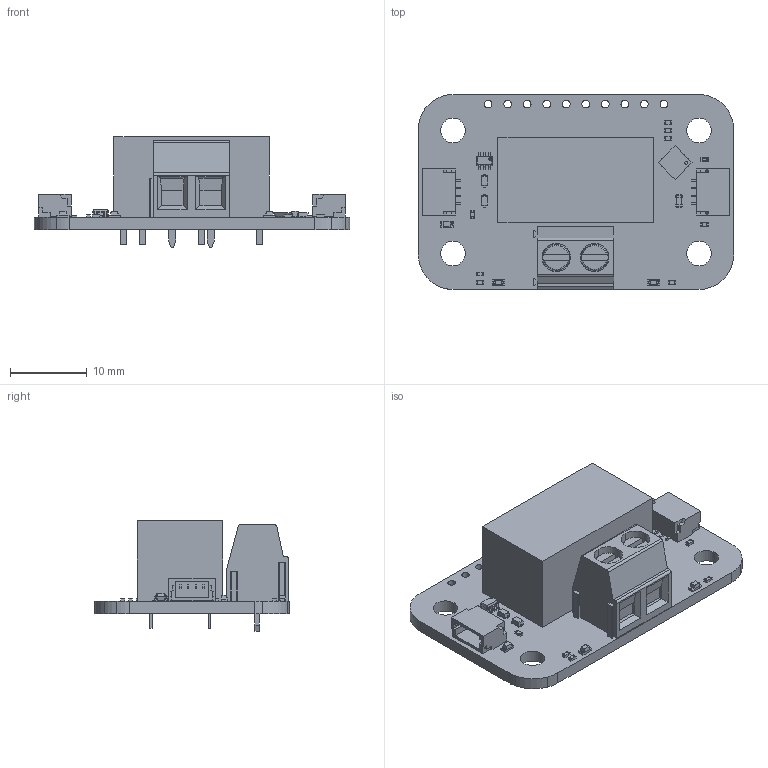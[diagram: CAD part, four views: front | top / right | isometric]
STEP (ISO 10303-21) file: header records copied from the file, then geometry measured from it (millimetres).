
FILE_DESCRIPTION(('Open CASCADE Model'),'2;1');
FILE_NAME('Open CASCADE Shape Model','2025-12-05T11:31:17',('Author'),( 'Open CASCADE'),'Open CASCADE STEP processor 7.5','Open CASCADE 7.5' ,'Unknown');
FILE_SCHEMA(('AUTOMOTIVE_DESIGN { 1 0 10303 214 1 1 1 1 }'));
Length unit declared in the file: millimetre
Products named in the file (45): PCB; Board; Open CASCADE STEP translator 7.5 1.1.1; R6; RES-0402; Q1; sot363; R5; R4; D3; 7340522016; Body; Open CASCADE STEP translator 7.5 2.1.1; lead; J3; DG127-5.0-02P-1Y-1000A&Z(H)_RGB4408131; D5; HSMx-190; R14; D4; RELAY1; 7638685216; Extruded; 7638685056; R12; D2; R1; D1; J2; SM04B-SRSS-TB_RGB12040119; J1; U1; 7340525536; Open CASCADE STEP translator 7.5 16.1; Open CASCADE STEP translator 7.5 16.2.1; Pin Shape; Open CASCADE STEP translator 7.5 16.3.1; R11; R10; C3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
Assembly tree (80 placements, depth 5):
  PCB
    Board
      Open CASCADE STEP translator 7.5 1.1.1
    R6
      RES-0402
    Q1
      sot363
    R5
      RES-0402
    R4
      RES-0402
    D3
      7340522016
        Body
          Open CASCADE STEP translator 7.5 2.1.1
        lead  x2
    J3
      DG127-5.0-02P-1Y-1000A&Z(H)_RGB4408131
    D5
      HSMx-190
    R14
      RES-0402
    D4
      HSMx-190
    RELAY1
      7638685216
        Extruded
      7638685056  x6
        Extruded
    R12
      RES-0402
    D2
      7340522016
        Body
          Open CASCADE STEP translator 7.5 2.1.1
        lead  x2
    R1
      RES-0402
    D1
      HSMx-190
    J2
      SM04B-SRSS-TB_RGB12040119
    J1
      SM04B-SRSS-TB_RGB12040119
    U1
      7340525536
        Open CASCADE STEP translator 7.5 16.1
        Body
          Open CASCADE STEP translator 7.5 16.2.1
        Pin Shape  x20
          Open CASCADE STEP translator 7.5 16.3.1
    R11
      RES-0402
    R10
      RES-0402
    C3
      CAP-0402
    C4
      CAP-0603
Bounding box: 41 x 25.36 x 14.4 mm (x, y, z)
Volume: 4705 mm3; surface area: 4548.5 mm2
Topology: 52 solids, 53 shells, 1478 faces, 3693 edges, 2299 vertices
Faces by surface type: plane 1137, cylinder 251, sphere 44, bspline 24, torus 16, cone 6
Full cylindrical faces by diameter (mm): 0.07 x3, 0.388 x1, 1 x16, 3.2 x4
Entity records: 22054 total; most frequent: CARTESIAN_POINT 4321, DIRECTION 3258, ORIENTED_EDGE 3153, EDGE_CURVE 1577, LINE 1132, VECTOR 1132, AXIS2_PLACEMENT_3D 1063, VERTEX_POINT 985
